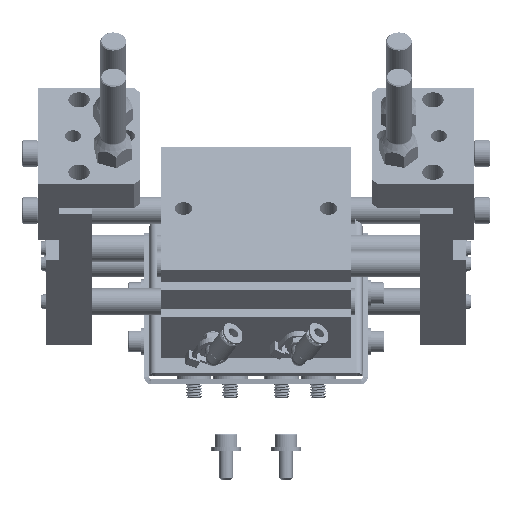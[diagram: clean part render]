
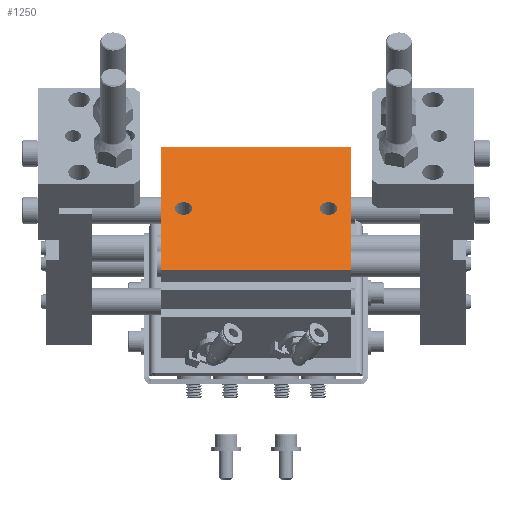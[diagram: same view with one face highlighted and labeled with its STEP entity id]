
A CAD part, left-side view. The second image highlights one B-rep face of the part: STEP entity #1250.
In plain terms, the highlighted planar face has unit normal (-0.707, 0, 0.707) as drawn and (0, -1, 0) by its records, which use the part's own axes.
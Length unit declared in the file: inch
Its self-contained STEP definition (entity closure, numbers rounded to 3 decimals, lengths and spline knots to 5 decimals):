
#706 = DIRECTION ( 'NONE',  ( 0., 1., 0. ) ) ;
#898 = DIRECTION ( 'NONE',  ( 0., 0., 1. ) ) ;
#1250 = ADVANCED_FACE ( 'NONE', ( #19554, #31939, #38401 ), #9839, .F. ) ;
#1947 = DIRECTION ( 'NONE',  ( 0., 0., -1. ) ) ;
#2298 = CARTESIAN_POINT ( 'NONE',  ( -1.39764, -1.81102, -1.27953 ) ) ;
#2372 = VERTEX_POINT ( 'NONE', #10542 ) ;
#2580 = DIRECTION ( 'NONE',  ( 1., 0., 0. ) ) ;
#2976 = DIRECTION ( 'NONE',  ( 0., 0., 1. ) ) ;
#3036 = CARTESIAN_POINT ( 'NONE',  ( -1.06299, -1.81102, 0. ) ) ;
#3519 = LINE ( 'NONE', #22335, #34744 ) ;
#3613 = EDGE_CURVE ( 'NONE', #20099, #22541, #30722, .T. ) ;
#4557 = CARTESIAN_POINT ( 'NONE',  ( -1.06299, -1.81102, 0.12992 ) ) ;
#4739 = CIRCLE ( 'NONE', #16341, 0.12992 ) ;
#4940 = AXIS2_PLACEMENT_3D ( 'NONE', #3036, #24502, #18619 ) ;
#5419 = EDGE_CURVE ( 'NONE', #13352, #35798, #4739, .T. ) ;
#5958 = VECTOR ( 'NONE', #24740, 39.37008 ) ;
#6197 = VECTOR ( 'NONE', #1947, 39.37008 ) ;
#6796 = DIRECTION ( 'NONE',  ( 0., 0., 1. ) ) ;
#6874 = CIRCLE ( 'NONE', #4940, 0.12992 ) ;
#7756 = CARTESIAN_POINT ( 'NONE',  ( 1.06299, -1.81102, -0.12992 ) ) ;
#7970 = CARTESIAN_POINT ( 'NONE',  ( 1.39764, -1.81102, -1.27953 ) ) ;
#8029 = EDGE_LOOP ( 'NONE', ( #27908, #23287 ) ) ;
#8066 = EDGE_CURVE ( 'NONE', #2372, #11436, #36229, .T. ) ;
#9839 = PLANE ( 'NONE',  #38256 ) ;
#10542 = CARTESIAN_POINT ( 'NONE',  ( -1.39764, -1.81102, 1.27953 ) ) ;
#11436 = VERTEX_POINT ( 'NONE', #32746 ) ;
#11681 = CARTESIAN_POINT ( 'NONE',  ( -1.39764, -1.81102, 1.27953 ) ) ;
#12406 = ORIENTED_EDGE ( 'NONE', *, *, #14830, .F. ) ;
#13352 = VERTEX_POINT ( 'NONE', #7756 ) ;
#14830 = EDGE_CURVE ( 'NONE', #24461, #15418, #3519, .T. ) ;
#15126 = ORIENTED_EDGE ( 'NONE', *, *, #3613, .T. ) ;
#15418 = VERTEX_POINT ( 'NONE', #37860 ) ;
#16341 = AXIS2_PLACEMENT_3D ( 'NONE', #19705, #706, #898 ) ;
#16560 = ORIENTED_EDGE ( 'NONE', *, *, #8066, .F. ) ;
#17104 = CARTESIAN_POINT ( 'NONE',  ( 1.39764, -1.81102, -1.27953 ) ) ;
#18138 = DIRECTION ( 'NONE',  ( 0., 0., 1. ) ) ;
#18619 = DIRECTION ( 'NONE',  ( 0., 0., 1. ) ) ;
#19554 = FACE_BOUND ( 'NONE', #39950, .T. ) ;
#19705 = CARTESIAN_POINT ( 'NONE',  ( 1.06299, -1.81102, 0. ) ) ;
#20099 = VERTEX_POINT ( 'NONE', #4557 ) ;
#21865 = CIRCLE ( 'NONE', #39991, 0.12992 ) ;
#22189 = CARTESIAN_POINT ( 'NONE',  ( 0., -1.81102, 0. ) ) ;
#22335 = CARTESIAN_POINT ( 'NONE',  ( -1.39764, -1.81102, -1.27953 ) ) ;
#22541 = VERTEX_POINT ( 'NONE', #34775 ) ;
#23287 = ORIENTED_EDGE ( 'NONE', *, *, #5419, .T. ) ;
#24461 = VERTEX_POINT ( 'NONE', #7970 ) ;
#24502 = DIRECTION ( 'NONE',  ( 0., 1., 0. ) ) ;
#24625 = DIRECTION ( 'NONE',  ( 0., 1., 0. ) ) ;
#24740 = DIRECTION ( 'NONE',  ( 0., 0., 1. ) ) ;
#24804 = EDGE_LOOP ( 'NONE', ( #27901, #12406, #27288, #16560 ) ) ;
#27288 = ORIENTED_EDGE ( 'NONE', *, *, #27338, .F. ) ;
#27338 = EDGE_CURVE ( 'NONE', #11436, #24461, #38821, .T. ) ;
#27433 = CARTESIAN_POINT ( 'NONE',  ( 1.06299, -1.81102, 0. ) ) ;
#27901 = ORIENTED_EDGE ( 'NONE', *, *, #29154, .F. ) ;
#27908 = ORIENTED_EDGE ( 'NONE', *, *, #38842, .T. ) ;
#29154 = EDGE_CURVE ( 'NONE', #15418, #2372, #36349, .T. ) ;
#30722 = CIRCLE ( 'NONE', #37829, 0.12992 ) ;
#30913 = DIRECTION ( 'NONE',  ( 0., 1., 0. ) ) ;
#31590 = CARTESIAN_POINT ( 'NONE',  ( 1.06299, -1.81102, 0.12992 ) ) ;
#31939 = FACE_BOUND ( 'NONE', #8029, .T. ) ;
#32746 = CARTESIAN_POINT ( 'NONE',  ( 1.39764, -1.81102, 1.27953 ) ) ;
#33928 = DIRECTION ( 'NONE',  ( -1., 0., 0. ) ) ;
#33979 = CARTESIAN_POINT ( 'NONE',  ( -1.06299, -1.81102, 0. ) ) ;
#34567 = DIRECTION ( 'NONE',  ( 0., 1., 0. ) ) ;
#34744 = VECTOR ( 'NONE', #33928, 39.37008 ) ;
#34775 = CARTESIAN_POINT ( 'NONE',  ( -1.06299, -1.81102, -0.12992 ) ) ;
#35261 = ORIENTED_EDGE ( 'NONE', *, *, #36511, .T. ) ;
#35798 = VERTEX_POINT ( 'NONE', #31590 ) ;
#36229 = LINE ( 'NONE', #11681, #39515 ) ;
#36349 = LINE ( 'NONE', #2298, #5958 ) ;
#36511 = EDGE_CURVE ( 'NONE', #22541, #20099, #6874, .T. ) ;
#37829 = AXIS2_PLACEMENT_3D ( 'NONE', #33979, #24625, #2976 ) ;
#37860 = CARTESIAN_POINT ( 'NONE',  ( -1.39764, -1.81102, -1.27953 ) ) ;
#38256 = AXIS2_PLACEMENT_3D ( 'NONE', #22189, #34567, #6796 ) ;
#38401 = FACE_OUTER_BOUND ( 'NONE', #24804, .T. ) ;
#38821 = LINE ( 'NONE', #17104, #6197 ) ;
#38842 = EDGE_CURVE ( 'NONE', #35798, #13352, #21865, .T. ) ;
#39515 = VECTOR ( 'NONE', #2580, 39.37008 ) ;
#39950 = EDGE_LOOP ( 'NONE', ( #15126, #35261 ) ) ;
#39991 = AXIS2_PLACEMENT_3D ( 'NONE', #27433, #30913, #18138 ) ;
